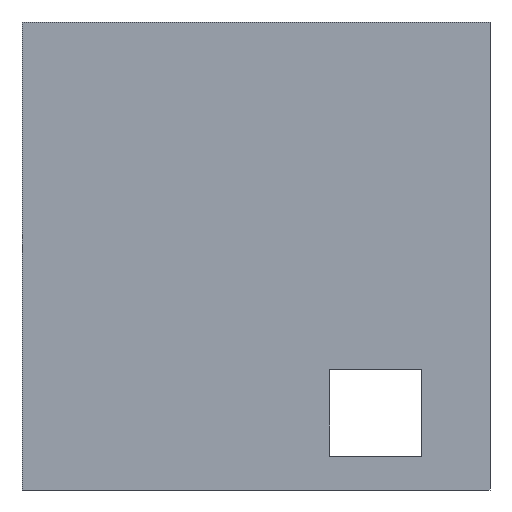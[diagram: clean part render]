
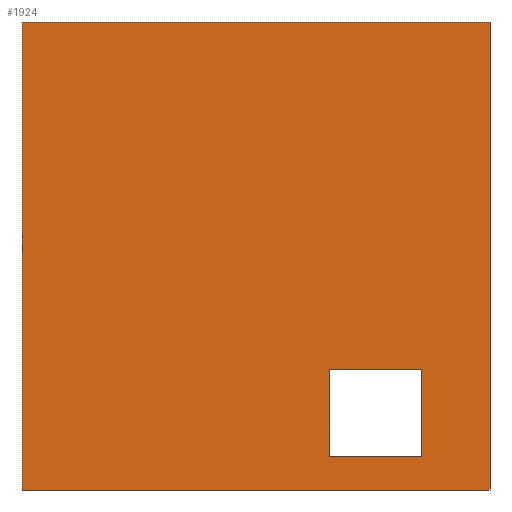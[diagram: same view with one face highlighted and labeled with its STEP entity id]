
A CAD part, left-side view. The second image highlights one B-rep face of the part: STEP entity #1924.
In plain terms, the highlighted planar face has unit normal (-1, 0, 0).
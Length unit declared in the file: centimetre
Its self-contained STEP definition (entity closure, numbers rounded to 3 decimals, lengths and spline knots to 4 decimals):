
#24 = EDGE_CURVE ( 'NONE', #2203, #132, #1989, .T. ) ;
#40 = ORIENTED_EDGE ( 'NONE', *, *, #1832, .T. ) ;
#45 = CARTESIAN_POINT ( 'NONE',  ( 0., 1000., 1000. ) ) ;
#75 = VECTOR ( 'NONE', #1847, 100. ) ;
#132 = VERTEX_POINT ( 'NONE', #893 ) ;
#144 = VERTEX_POINT ( 'NONE', #733 ) ;
#236 = VECTOR ( 'NONE', #1700, 100. ) ;
#252 = VECTOR ( 'NONE', #2418, 100. ) ;
#402 = AXIS2_PLACEMENT_3D ( 'NONE', #45, #1940, #1950 ) ;
#445 = LINE ( 'NONE', #466, #1246 ) ;
#457 = EDGE_CURVE ( 'NONE', #1713, #2203, #445, .T. ) ;
#466 = CARTESIAN_POINT ( 'NONE',  ( 0., 145.3306, 257.1618 ) ) ;
#491 = LINE ( 'NONE', #2011, #252 ) ;
#519 = LINE ( 'NONE', #2433, #846 ) ;
#531 = LINE ( 'NONE', #939, #236 ) ;
#591 = EDGE_CURVE ( 'NONE', #2229, #144, #519, .T. ) ;
#668 = CARTESIAN_POINT ( 'NONE',  ( 0., 342.5999, 257.1618 ) ) ;
#718 = DIRECTION ( 'NONE',  ( 0., -1., 0. ) ) ;
#733 = CARTESIAN_POINT ( 'NONE',  ( 0., 0., 0. ) ) ;
#773 = VECTOR ( 'NONE', #1901, 100. ) ;
#776 = LINE ( 'NONE', #1879, #773 ) ;
#827 = LINE ( 'NONE', #2153, #1358 ) ;
#841 = DIRECTION ( 'NONE',  ( 0., 0., -1. ) ) ;
#846 = VECTOR ( 'NONE', #718, 100. ) ;
#893 = CARTESIAN_POINT ( 'NONE',  ( 0., 145.3306, 72.2444 ) ) ;
#908 = ORIENTED_EDGE ( 'NONE', *, *, #2080, .F. ) ;
#939 = CARTESIAN_POINT ( 'NONE',  ( 0., 1000., 1000. ) ) ;
#963 = EDGE_CURVE ( 'NONE', #2069, #1568, #531, .T. ) ;
#1246 = VECTOR ( 'NONE', #1405, 100. ) ;
#1356 = ORIENTED_EDGE ( 'NONE', *, *, #1722, .T. ) ;
#1358 = VECTOR ( 'NONE', #2166, 100. ) ;
#1367 = PLANE ( 'NONE',  #402 ) ;
#1397 = VECTOR ( 'NONE', #841, 100. ) ;
#1405 = DIRECTION ( 'NONE',  ( 0., -1., 0. ) ) ;
#1510 = FACE_BOUND ( 'NONE', #1891, .T. ) ;
#1568 = VERTEX_POINT ( 'NONE', #1747 ) ;
#1700 = DIRECTION ( 'NONE',  ( 0., -1., 0. ) ) ;
#1713 = VERTEX_POINT ( 'NONE', #668 ) ;
#1722 = EDGE_CURVE ( 'NONE', #2069, #2229, #827, .T. ) ;
#1724 = CARTESIAN_POINT ( 'NONE',  ( 0., 1000., 0. ) ) ;
#1747 = CARTESIAN_POINT ( 'NONE',  ( 0., 0., 1000. ) ) ;
#1780 = ORIENTED_EDGE ( 'NONE', *, *, #2248, .T. ) ;
#1793 = CARTESIAN_POINT ( 'NONE',  ( 0., 145.3306, 72.2444 ) ) ;
#1805 = EDGE_LOOP ( 'NONE', ( #2054, #908, #2370, #1356 ) ) ;
#1832 = EDGE_CURVE ( 'NONE', #132, #2138, #2205, .T. ) ;
#1847 = DIRECTION ( 'NONE',  ( 0., 1., 0. ) ) ;
#1879 = CARTESIAN_POINT ( 'NONE',  ( 0., 342.5999, 72.2444 ) ) ;
#1891 = EDGE_LOOP ( 'NONE', ( #2083, #40, #1780, #2290 ) ) ;
#1901 = DIRECTION ( 'NONE',  ( 0., 0., 1. ) ) ;
#1924 = ADVANCED_FACE ( 'NONE', ( #1510, #2147 ), #1367, .F. ) ;
#1940 = DIRECTION ( 'NONE',  ( 1., 0., 0. ) ) ;
#1950 = DIRECTION ( 'NONE',  ( 0., 0., -1. ) ) ;
#1989 = LINE ( 'NONE', #1793, #1397 ) ;
#2011 = CARTESIAN_POINT ( 'NONE',  ( 0., 0., 1000. ) ) ;
#2022 = CARTESIAN_POINT ( 'NONE',  ( 0., 342.5999, 72.2444 ) ) ;
#2053 = CARTESIAN_POINT ( 'NONE',  ( 0., 1000., 1000. ) ) ;
#2054 = ORIENTED_EDGE ( 'NONE', *, *, #591, .T. ) ;
#2066 = CARTESIAN_POINT ( 'NONE',  ( 0., 145.3306, 257.1618 ) ) ;
#2069 = VERTEX_POINT ( 'NONE', #2053 ) ;
#2080 = EDGE_CURVE ( 'NONE', #1568, #144, #491, .T. ) ;
#2083 = ORIENTED_EDGE ( 'NONE', *, *, #24, .T. ) ;
#2138 = VERTEX_POINT ( 'NONE', #2022 ) ;
#2147 = FACE_OUTER_BOUND ( 'NONE', #1805, .T. ) ;
#2153 = CARTESIAN_POINT ( 'NONE',  ( 0., 1000., 1000. ) ) ;
#2166 = DIRECTION ( 'NONE',  ( 0., 0., -1. ) ) ;
#2203 = VERTEX_POINT ( 'NONE', #2066 ) ;
#2205 = LINE ( 'NONE', #2466, #75 ) ;
#2229 = VERTEX_POINT ( 'NONE', #1724 ) ;
#2248 = EDGE_CURVE ( 'NONE', #2138, #1713, #776, .T. ) ;
#2290 = ORIENTED_EDGE ( 'NONE', *, *, #457, .T. ) ;
#2370 = ORIENTED_EDGE ( 'NONE', *, *, #963, .F. ) ;
#2418 = DIRECTION ( 'NONE',  ( 0., 0., -1. ) ) ;
#2433 = CARTESIAN_POINT ( 'NONE',  ( 0., 1000., 0. ) ) ;
#2466 = CARTESIAN_POINT ( 'NONE',  ( 0., 145.3306, 72.2444 ) ) ;
